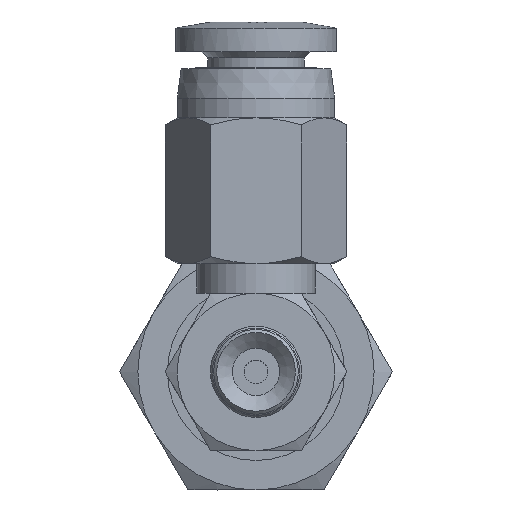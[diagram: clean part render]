
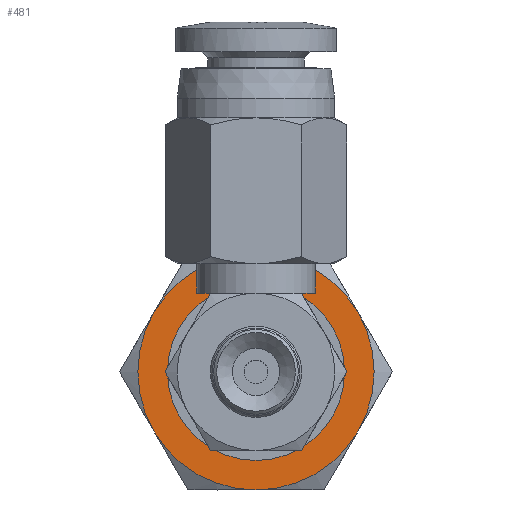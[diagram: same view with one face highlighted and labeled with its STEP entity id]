
A CAD part, front view. The second image highlights one B-rep face of the part: STEP entity #481.
In plain terms, the highlighted planar face has unit normal (0, -1, 0) as drawn and (-1, 0, 0) by its records, which use the part's own axes.
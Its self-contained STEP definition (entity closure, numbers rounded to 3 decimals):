
#481=ADVANCED_FACE('',(#684,#685),#686,.F.);
#684=FACE_BOUND('',#1096,.T.);
#685=FACE_OUTER_BOUND('',#1097,.T.);
#686=PLANE('',#1098);
#1096=EDGE_LOOP('',(#1841));
#1097=EDGE_LOOP('',(#1842,#1843,#1844,#1845,#1846,#1847));
#1098=AXIS2_PLACEMENT_3D('',#1848,#1849,#1850);
#1841=ORIENTED_EDGE('',*,*,#2805,.T.);
#1842=ORIENTED_EDGE('',*,*,#2777,.F.);
#1843=ORIENTED_EDGE('',*,*,#2811,.F.);
#1844=ORIENTED_EDGE('',*,*,#2768,.F.);
#1845=ORIENTED_EDGE('',*,*,#2784,.F.);
#1846=ORIENTED_EDGE('',*,*,#2812,.F.);
#1847=ORIENTED_EDGE('',*,*,#2813,.F.);
#1848=CARTESIAN_POINT('',(0.,0.0,0.0));
#1849=DIRECTION('',(1.0,0.0,0.0));
#1850=DIRECTION('',(0.0,1.0,0.0));
#2768=EDGE_CURVE('',#3083,#3084,#3085,.T.);
#2777=EDGE_CURVE('',#3099,#3101,#3102,.T.);
#2784=EDGE_CURVE('',#3113,#3083,#3114,.T.);
#2805=EDGE_CURVE('',#3147,#3147,#3148,.T.);
#2811=EDGE_CURVE('',#3084,#3099,#3154,.T.);
#2812=EDGE_CURVE('',#3138,#3113,#3155,.T.);
#2813=EDGE_CURVE('',#3101,#3138,#3156,.T.);
#3083=VERTEX_POINT('',#3609);
#3084=VERTEX_POINT('',#3610);
#3085=CIRCLE('',#3611,6.0);
#3099=VERTEX_POINT('',#3677);
#3101=VERTEX_POINT('',#3689);
#3102=CIRCLE('',#3690,6.0);
#3113=VERTEX_POINT('',#3743);
#3114=CIRCLE('',#3744,6.0);
#3138=VERTEX_POINT('',#3890);
#3147=VERTEX_POINT('',#3919);
#3148=CIRCLE('',#3920,4.0);
#3154=CIRCLE('',#3926,6.0);
#3155=CIRCLE('',#3927,6.0);
#3156=CIRCLE('',#3928,6.0);
#3609=CARTESIAN_POINT('',(0.,-5.196,-3.0));
#3610=CARTESIAN_POINT('',(0.,0.0,-6.0));
#3611=AXIS2_PLACEMENT_3D('',#4790,#4791,#4792);
#3677=CARTESIAN_POINT('',(0.,5.196,-3.0));
#3689=CARTESIAN_POINT('',(0.,5.196,3.0));
#3690=AXIS2_PLACEMENT_3D('',#4795,#4796,#4797);
#3743=CARTESIAN_POINT('',(0.,-5.196,3.0));
#3744=AXIS2_PLACEMENT_3D('',#4800,#4801,#4802);
#3890=CARTESIAN_POINT('',(0.,0.0,6.0));
#3919=CARTESIAN_POINT('',(0.,0.0,-4.0));
#3920=AXIS2_PLACEMENT_3D('',#4817,#4818,#4819);
#3926=AXIS2_PLACEMENT_3D('',#4835,#4836,#4837);
#3927=AXIS2_PLACEMENT_3D('',#4838,#4839,#4840);
#3928=AXIS2_PLACEMENT_3D('',#4841,#4842,#4843);
#4790=CARTESIAN_POINT('',(0.,0.0,0.0));
#4791=DIRECTION('',(1.0,0.0,0.0));
#4792=DIRECTION('',(0.0,0.0,-1.0));
#4795=CARTESIAN_POINT('',(0.,0.0,0.0));
#4796=DIRECTION('',(1.0,0.0,0.0));
#4797=DIRECTION('',(0.0,0.0,-1.0));
#4800=CARTESIAN_POINT('',(0.,0.0,0.0));
#4801=DIRECTION('',(1.0,0.0,0.0));
#4802=DIRECTION('',(0.0,0.0,-1.0));
#4817=CARTESIAN_POINT('',(0.,0.0,0.0));
#4818=DIRECTION('',(1.0,0.0,0.0));
#4819=DIRECTION('',(0.0,0.0,-1.0));
#4835=CARTESIAN_POINT('',(0.,0.0,0.0));
#4836=DIRECTION('',(1.0,0.0,0.0));
#4837=DIRECTION('',(0.0,0.0,-1.0));
#4838=CARTESIAN_POINT('',(0.,0.0,0.0));
#4839=DIRECTION('',(1.0,0.0,0.0));
#4840=DIRECTION('',(0.0,0.0,-1.0));
#4841=CARTESIAN_POINT('',(0.,0.0,0.0));
#4842=DIRECTION('',(1.0,0.0,0.0));
#4843=DIRECTION('',(0.0,0.0,-1.0));
